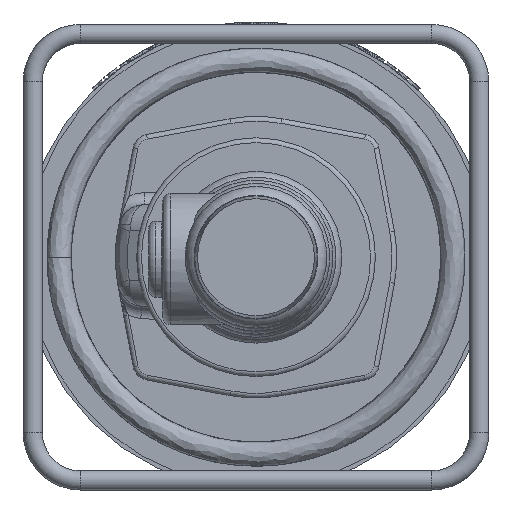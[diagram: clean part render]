
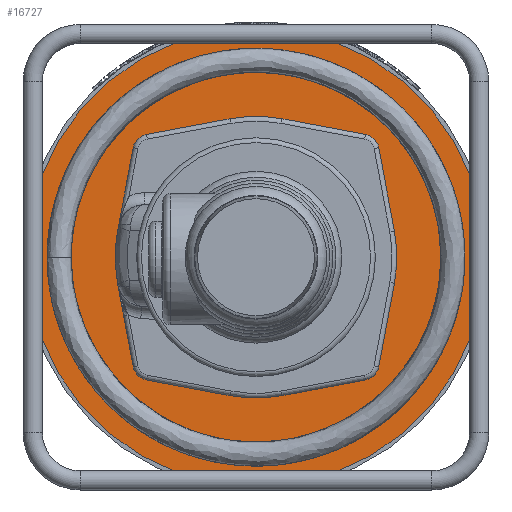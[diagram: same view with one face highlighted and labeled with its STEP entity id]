
A CAD part, left-side view. The second image highlights one B-rep face of the part: STEP entity #16727.
In plain terms, the highlighted planar face has unit normal (-1, 0, 0).
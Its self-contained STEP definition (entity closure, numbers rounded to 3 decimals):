
#127=FACE_BOUND('',#5441,.T.);
#1644=PLANE('',#17713);
#2531=LINE('',#37624,#3474);
#2535=LINE('',#37633,#3478);
#2538=LINE('',#37641,#3481);
#2541=LINE('',#37649,#3484);
#2544=LINE('',#37657,#3487);
#2547=LINE('',#37665,#3490);
#2550=LINE('',#37673,#3493);
#2554=LINE('',#37683,#3497);
#3474=VECTOR('',#20326,10.);
#3478=VECTOR('',#20336,10.);
#3481=VECTOR('',#20345,10.);
#3484=VECTOR('',#20354,10.);
#3487=VECTOR('',#20363,10.);
#3490=VECTOR('',#20372,10.);
#3493=VECTOR('',#20381,10.);
#3497=VECTOR('',#20391,10.);
#4457=FACE_OUTER_BOUND('',#5440,.T.);
#5440=EDGE_LOOP('',(#14437));
#5441=EDGE_LOOP('',(#14438,#14439,#14440,#14441,#14442,#14443,#14444,#14445,
#14446,#14447,#14448,#14449,#14450,#14451,#14452,#14453));
#5925=CIRCLE('',#17602,7.);
#5926=CIRCLE('',#17605,59.);
#5927=CIRCLE('',#17608,7.);
#5928=CIRCLE('',#17611,59.);
#5929=CIRCLE('',#17614,7.);
#5930=CIRCLE('',#17617,59.);
#5931=CIRCLE('',#17620,7.);
#5934=CIRCLE('',#17627,59.);
#5986=CIRCLE('',#17714,96.);
#7513=VERTEX_POINT('',#37621);
#7514=VERTEX_POINT('',#37623);
#7515=VERTEX_POINT('',#37627);
#7516=VERTEX_POINT('',#37631);
#7517=VERTEX_POINT('',#37635);
#7518=VERTEX_POINT('',#37639);
#7519=VERTEX_POINT('',#37643);
#7520=VERTEX_POINT('',#37647);
#7521=VERTEX_POINT('',#37651);
#7522=VERTEX_POINT('',#37655);
#7523=VERTEX_POINT('',#37659);
#7524=VERTEX_POINT('',#37663);
#7525=VERTEX_POINT('',#37667);
#7526=VERTEX_POINT('',#37671);
#7527=VERTEX_POINT('',#37675);
#7529=VERTEX_POINT('',#37681);
#7592=VERTEX_POINT('',#38457);
#9747=EDGE_CURVE('',#7514,#7513,#2531,.T.);
#9750=EDGE_CURVE('',#7513,#7515,#5925,.T.);
#9752=EDGE_CURVE('',#7515,#7516,#2535,.T.);
#9754=EDGE_CURVE('',#7516,#7517,#5926,.T.);
#9756=EDGE_CURVE('',#7517,#7518,#2538,.T.);
#9758=EDGE_CURVE('',#7518,#7519,#5927,.T.);
#9760=EDGE_CURVE('',#7519,#7520,#2541,.T.);
#9762=EDGE_CURVE('',#7520,#7521,#5928,.T.);
#9764=EDGE_CURVE('',#7521,#7522,#2544,.T.);
#9766=EDGE_CURVE('',#7522,#7523,#5929,.T.);
#9768=EDGE_CURVE('',#7523,#7524,#2547,.T.);
#9770=EDGE_CURVE('',#7524,#7525,#5930,.T.);
#9772=EDGE_CURVE('',#7525,#7526,#2550,.T.);
#9774=EDGE_CURVE('',#7526,#7527,#5931,.T.);
#9777=EDGE_CURVE('',#7527,#7529,#2554,.T.);
#9787=EDGE_CURVE('',#7529,#7514,#5934,.T.);
#9887=EDGE_CURVE('',#7592,#7592,#5986,.T.);
#14437=ORIENTED_EDGE('',*,*,#9887,.F.);
#14438=ORIENTED_EDGE('',*,*,#9747,.T.);
#14439=ORIENTED_EDGE('',*,*,#9750,.T.);
#14440=ORIENTED_EDGE('',*,*,#9752,.T.);
#14441=ORIENTED_EDGE('',*,*,#9754,.T.);
#14442=ORIENTED_EDGE('',*,*,#9756,.T.);
#14443=ORIENTED_EDGE('',*,*,#9758,.T.);
#14444=ORIENTED_EDGE('',*,*,#9760,.T.);
#14445=ORIENTED_EDGE('',*,*,#9762,.T.);
#14446=ORIENTED_EDGE('',*,*,#9764,.T.);
#14447=ORIENTED_EDGE('',*,*,#9766,.T.);
#14448=ORIENTED_EDGE('',*,*,#9768,.T.);
#14449=ORIENTED_EDGE('',*,*,#9770,.T.);
#14450=ORIENTED_EDGE('',*,*,#9772,.T.);
#14451=ORIENTED_EDGE('',*,*,#9774,.T.);
#14452=ORIENTED_EDGE('',*,*,#9777,.T.);
#14453=ORIENTED_EDGE('',*,*,#9787,.T.);
#16727=ADVANCED_FACE('',(#4457,#127),#1644,.F.);
#17602=AXIS2_PLACEMENT_3D('',#37629,#20331,#20332);
#17605=AXIS2_PLACEMENT_3D('',#37637,#20340,#20341);
#17608=AXIS2_PLACEMENT_3D('',#37645,#20349,#20350);
#17611=AXIS2_PLACEMENT_3D('',#37653,#20358,#20359);
#17614=AXIS2_PLACEMENT_3D('',#37661,#20367,#20368);
#17617=AXIS2_PLACEMENT_3D('',#37669,#20376,#20377);
#17620=AXIS2_PLACEMENT_3D('',#37677,#20385,#20386);
#17627=AXIS2_PLACEMENT_3D('',#37720,#20404,#20405);
#17713=AXIS2_PLACEMENT_3D('',#38456,#20594,#20595);
#17714=AXIS2_PLACEMENT_3D('',#38458,#20596,#20597);
#20326=DIRECTION('',(0.,-0.184,0.983));
#20331=DIRECTION('center_axis',(1.,0.,0.));
#20332=DIRECTION('ref_axis',(0.,0.809,-0.588));
#20336=DIRECTION('',(0.,-0.983,0.184));
#20340=DIRECTION('center_axis',(1.,0.,0.));
#20341=DIRECTION('ref_axis',(0.,0.,
1.));
#20345=DIRECTION('',(0.,-0.983,-0.184));
#20349=DIRECTION('center_axis',(1.,0.,0.));
#20350=DIRECTION('ref_axis',(0.,0.588,0.809));
#20354=DIRECTION('',(0.,-0.184,-0.983));
#20358=DIRECTION('center_axis',(1.,0.,0.));
#20359=DIRECTION('ref_axis',(0.,0.,
1.));
#20363=DIRECTION('',(0.,0.184,-0.983));
#20367=DIRECTION('center_axis',(1.,0.,0.));
#20368=DIRECTION('ref_axis',(0.,-0.809,0.588));
#20372=DIRECTION('',(0.,0.983,-0.184));
#20376=DIRECTION('center_axis',(1.,0.,0.));
#20377=DIRECTION('ref_axis',(0.,0.,
1.));
#20381=DIRECTION('',(0.,0.983,0.184));
#20385=DIRECTION('center_axis',(1.,0.,0.));
#20386=DIRECTION('ref_axis',(0.,-0.588,-0.809));
#20391=DIRECTION('',(0.,0.184,0.983));
#20404=DIRECTION('center_axis',(1.,0.,0.));
#20405=DIRECTION('ref_axis',(0.,0.,
1.));
#20594=DIRECTION('center_axis',(1.,0.,0.));
#20595=DIRECTION('ref_axis',(0.,1.,0.));
#20596=DIRECTION('center_axis',(1.,0.,0.));
#20597=DIRECTION('ref_axis',(0.,1.,0.));
#37621=CARTESIAN_POINT('',(0.,51.428,45.839));
#37623=CARTESIAN_POINT('',(0.,57.988,10.882));
#37624=CARTESIAN_POINT('',(0.,54.708,28.361));
#37627=CARTESIAN_POINT('',(0.,45.839,51.428));
#37629=CARTESIAN_POINT('Origin',(0.,44.548,
44.548));
#37631=CARTESIAN_POINT('',(0.,10.882,57.988));
#37633=CARTESIAN_POINT('',(0.,10.882,57.988));
#37635=CARTESIAN_POINT('',(0.,-10.882,57.988));
#37637=CARTESIAN_POINT('Origin',(0.,0.,
0.));
#37639=CARTESIAN_POINT('',(0.,-45.839,51.428));
#37641=CARTESIAN_POINT('',(0.,-10.882,57.988));
#37643=CARTESIAN_POINT('',(0.,-51.428,45.839));
#37645=CARTESIAN_POINT('Origin',(0.,-44.548,
44.548));
#37647=CARTESIAN_POINT('',(0.,-57.988,10.882));
#37649=CARTESIAN_POINT('',(0.,-54.708,28.361));
#37651=CARTESIAN_POINT('',(0.,-57.988,-10.882));
#37653=CARTESIAN_POINT('Origin',(0.,0.,
0.));
#37655=CARTESIAN_POINT('',(0.,-51.428,-45.839));
#37657=CARTESIAN_POINT('',(0.,-54.708,-28.361));
#37659=CARTESIAN_POINT('',(0.,-45.839,-51.428));
#37661=CARTESIAN_POINT('Origin',(0.,-44.548,
-44.548));
#37663=CARTESIAN_POINT('',(0.,-10.882,-57.988));
#37665=CARTESIAN_POINT('',(0.,-10.882,-57.988));
#37667=CARTESIAN_POINT('',(0.,10.882,-57.988));
#37669=CARTESIAN_POINT('Origin',(0.,0.,
0.));
#37671=CARTESIAN_POINT('',(0.,45.839,-51.428));
#37673=CARTESIAN_POINT('',(0.,10.882,-57.988));
#37675=CARTESIAN_POINT('',(0.,51.428,-45.839));
#37677=CARTESIAN_POINT('Origin',(0.,44.548,
-44.548));
#37681=CARTESIAN_POINT('',(0.,57.988,-10.882));
#37683=CARTESIAN_POINT('',(0.,54.708,-28.361));
#37720=CARTESIAN_POINT('Origin',(0.,0.,
0.));
#38456=CARTESIAN_POINT('Origin',(0.,0.,
0.));
#38457=CARTESIAN_POINT('',(0.,-96.,0.));
#38458=CARTESIAN_POINT('Origin',(0.,0.,
0.));
